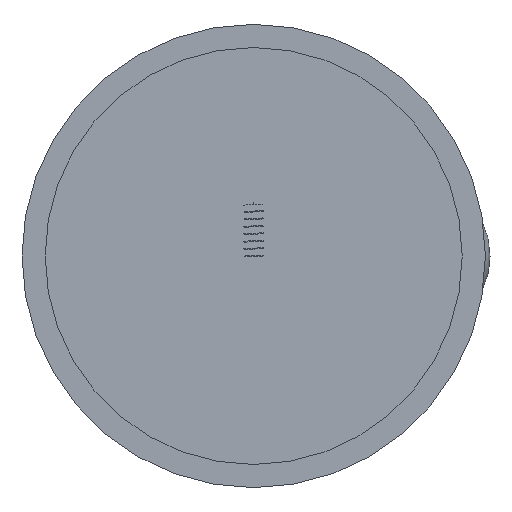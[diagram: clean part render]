
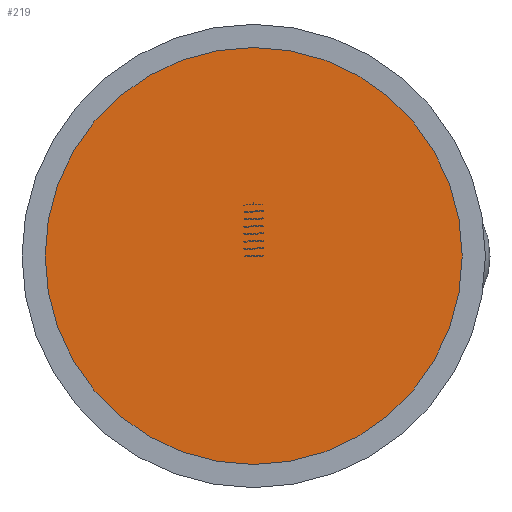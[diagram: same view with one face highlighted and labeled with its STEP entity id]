
A CAD part, left-side view. The second image highlights one B-rep face of the part: STEP entity #219.
In plain terms, the highlighted planar face has unit normal (-1, 0, 0).
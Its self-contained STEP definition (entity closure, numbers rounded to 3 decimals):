
#184=PLANE('',#556);
#198=FACE_OUTER_BOUND('',#300,.T.);
#219=ADVANCED_FACE('',(#198),#184,.F.);
#300=EDGE_LOOP('',(#350));
#350=ORIENTED_EDGE('',*,*,#481,.F.);
#441=VERTEX_POINT('',#745);
#481=EDGE_CURVE('',#441,#441,#529,.T.);
#529=CIRCLE('',#554,22.5);
#554=AXIS2_PLACEMENT_3D('',#744,#619,#620);
#556=AXIS2_PLACEMENT_3D('',#747,#623,#624);
#619=DIRECTION('',(1.,0.,0.));
#620=DIRECTION('',(0.,0.,-1.));
#623=DIRECTION('',(1.,0.,0.));
#624=DIRECTION('',(0.,0.,-1.));
#744=CARTESIAN_POINT('',(9.5,0.,0.));
#745=CARTESIAN_POINT('',(9.5,0.,-22.5));
#747=CARTESIAN_POINT('',(9.5,0.,0.));
